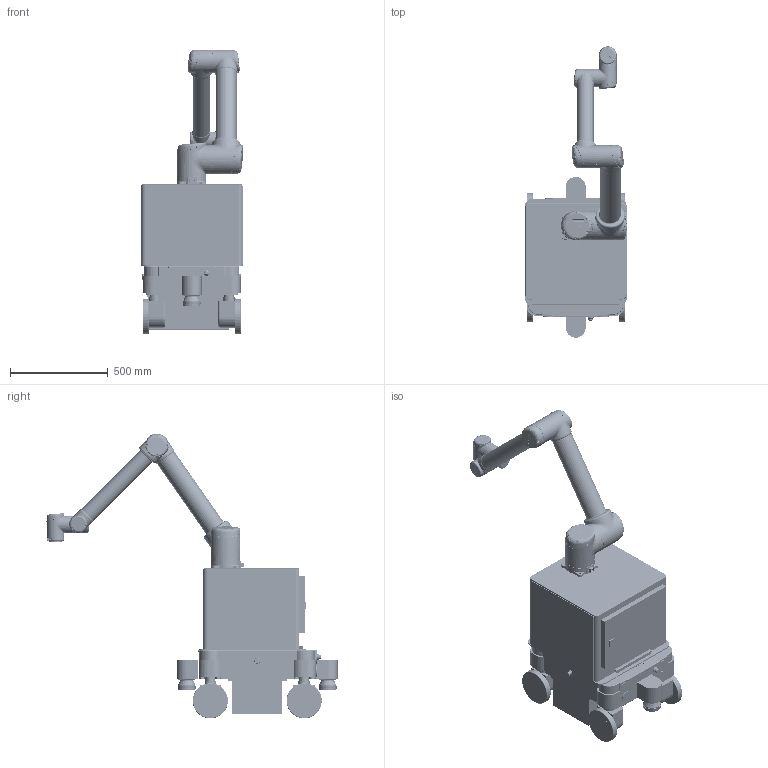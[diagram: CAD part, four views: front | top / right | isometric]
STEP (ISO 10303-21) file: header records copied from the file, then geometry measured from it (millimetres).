
FILE_DESCRIPTION(/* description */ (''),/* implementation_level */ '2;1');
FILE_NAME(/* name */ 'C:\Users\flv\Desktop\MMO-700_UR10_V2-4-5_2020-10-23.stp',/* time_stamp */ '2020-10-23T09:02:24+02:00',/* author */ ('flv'),/* organization */ (''),/* preprocessor_version */ 'ST-DEVELOPER v16.5',/* originating_system */ 'Autodesk Inventor 2017',/* authorisation */ '');
FILE_SCHEMA (('AUTOMOTIVE_DESIGN { 1 0 10303 214 3 1 1 }'));
Products named in the file (12): MMO-700 UR10 V2.4.5; MPO-700 V2.4.5 Simplified Complete; MPO-500 V1.2.3 Simplified UR Schaltschrank; UR10; Base; Size 4 Joint; Upper arm; Size 3 Joint; Size 3 Elbow; Lower arm; Size 2 Joint; Tool flange
Assembly tree (14 placements, depth 3):
  MMO-700 UR10 V2.4.5
    MPO-700 V2.4.5 Simplified Complete
    MPO-500 V1.2.3 Simplified UR Schaltschrank
    UR10
      Base
      Size 4 Joint  x2
      Upper arm
      Size 3 Joint
      Size 3 Elbow
      Lower arm
      Size 2 Joint  x3
      Tool flange
Bounding box: 523.71 x 1489.33 x 1457.13 mm (x, y, z)
Volume: 200996972.6 mm3; surface area: 4876916.7 mm2
Topology: 62 solids, 63 shells, 6659 faces, 16237 edges, 9660 vertices
Faces by surface type: bspline 2798, plane 1749, cylinder 1285, torus 335, cone 312, sphere 180
Full cylindrical faces by diameter (mm): 2.46 x1, 2.5 x3, 2.9 x2, 3 x39, 3.2 x2, 3.24 x10, 3.4 x28, 3.5 x10, 4 x10, 5 x4, 5.5 x19, 5.7 x4, 5.8 x2, 6 x1, 6.5 x1, 7.8 x1, 8 x1, 8.2 x5, 10 x1, 19.819 x2, 22 x1, 28 x2, 28.5 x1, 30 x5, 31.5 x1, 50 x4, 58 x4, 63 x1, 66.231 x2, 86 x1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
Entity records: 280334 total; most frequent: CARTESIAN_POINT 186331, ORIENTED_EDGE 20106, DIRECTION 16010, EDGE_CURVE 10053, VERTEX_POINT 6287, AXIS2_PLACEMENT_3D 6203, EDGE_LOOP 4880, FACE_OUTER_BOUND 4339
